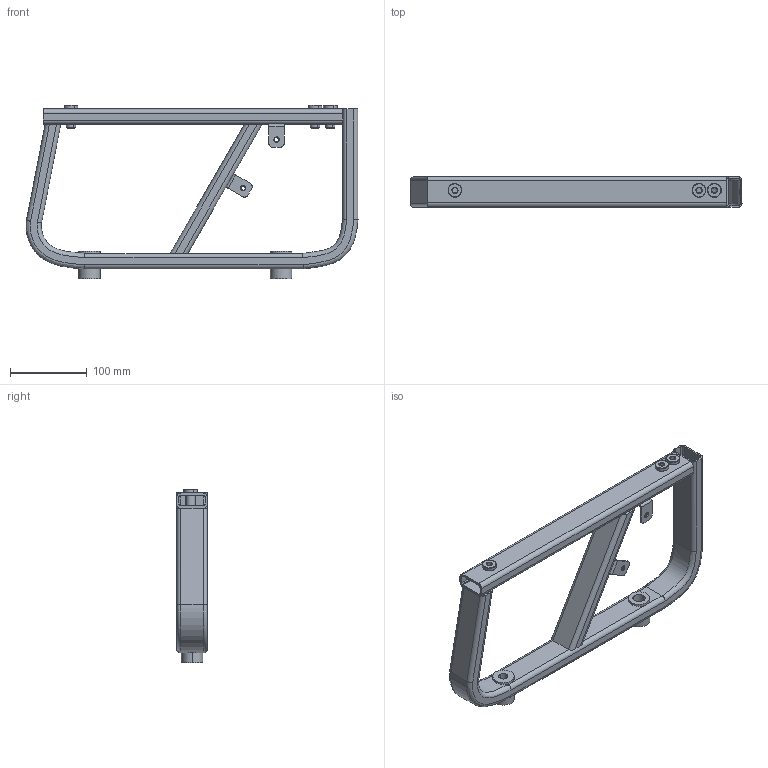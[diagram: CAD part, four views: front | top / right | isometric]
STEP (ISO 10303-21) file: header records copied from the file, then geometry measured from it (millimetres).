
FILE_DESCRIPTION(('CATIA V5 STEP Exchange'),'2;1');
FILE_NAME('C:\Users\wangyangguang\Desktop\奥杰轴套20220512\奥杰轴套\SBS0010119-主驾右支腿焊接总成\SBS0010119.stp','2022-05-18T08:06:11+00:00',('none'),('none'),'CATIA Version 5 Release 20 GA (IN-10)','CATIA V5 STEP AP203','none');
FILE_SCHEMA(('CONFIG_CONTROL_DESIGN'));
Length unit declared in the file: millimetre
Products named in the file (1): Part2
Bounding box: 432.52 x 40 x 226.4 mm (x, y, z)
Volume: 372060.6 mm3; surface area: 293623.5 mm2
Topology: 12 solids, 12 shells, 355 faces, 902 edges, 575 vertices
Faces by surface type: cylinder 146, plane 97, cone 52, torus 36, bspline 24
Entity records: 27111 total; most frequent: CARTESIAN_POINT 19112, ORIENTED_EDGE 1804, DIRECTION 1281, EDGE_CURVE 902, AXIS2_PLACEMENT_3D 603, VERTEX_POINT 572, EDGE_LOOP 402, VECTOR 358
